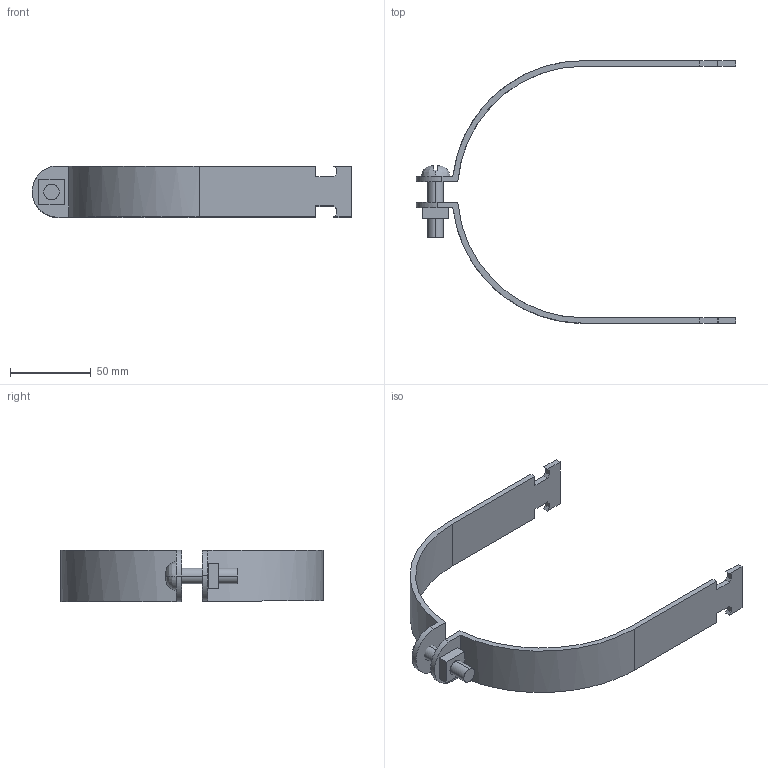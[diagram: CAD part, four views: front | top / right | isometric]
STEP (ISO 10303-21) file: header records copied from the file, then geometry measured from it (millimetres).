
FILE_DESCRIPTION(('TurboCAD Mac Pro'),'Build 980');
FILE_NAME('P2070-61.stp',' ',(''),(''),'ACIS Interop','IMSI','TurboCAD Mac Pro BY IMSI, INCORPORATED');
FILE_SCHEMA(('automotive_design'));
Length unit declared in the file: inch
Products named in the file (5): 1; 2; 3; 4; 5
Bounding box: 197.65 x 162.5 x 31.75 mm (x, y, z)
Volume: 53962.2 mm3; surface area: 35177.5 mm2
Topology: 4 solids, 4 shells, 71 faces, 186 edges, 124 vertices
Faces by surface type: plane 51, bspline 20
Entity records: 3500 total; most frequent: CARTESIAN_POINT 1065, ORIENTED_EDGE 372, DIRECTION 257, EDGE_CURVE 186, LINE 137, VECTOR 137, VERTEX_POINT 124, STYLED_ITEM 91
